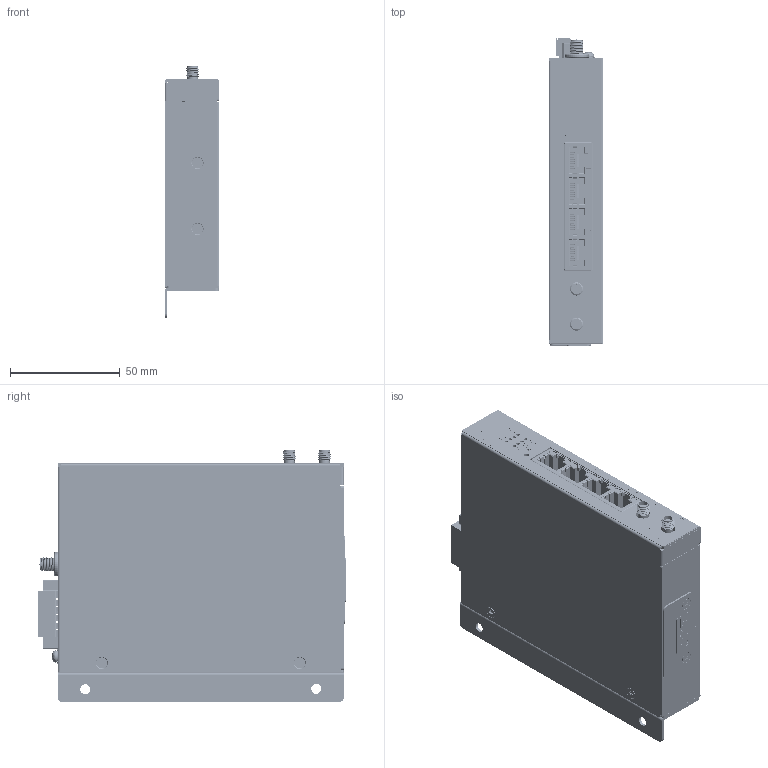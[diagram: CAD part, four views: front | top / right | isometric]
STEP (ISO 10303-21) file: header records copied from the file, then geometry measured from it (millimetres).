
FILE_DESCRIPTION (( 'STEP AP214' ), '1' );
FILE_NAME ('ICR-25xxW_Wall_mount.STEP', '2024-10-03T13:30:23', ( '' ), ( '' ), 'SwSTEP 2.0', 'SolidWorks 2024', '' );
FILE_SCHEMA (( 'AUTOMOTIVE_DESIGN' ));
Length unit declared in the file: millimetre
Products named in the file (33): RJ45_1x4_8p_Connector; B-ICR25xx A103-1; SMA_1P; Post_D3xL5; PCB-WIFI-20(4,5,6)xx; Plug-In_Block_1x6P; SMA_5P_Connector; Wall_mount_ICR-2(5,6)xx; BTB_20P_Conn; Chassis_for_ICR-25xx(G_W); SCR_ZC_M3_L6_PH_PW_2; LED_HOLDER_GGGG; PCB_ICR-25(6)xx; VMC-2022-04-1_Label - Insert SIM carefully_B; VMC-2022-04-1_Label - Insert SIM carefully; ICR-2500_FRONT_Label; Terminal_Block_1x6P; Cover_for_ICR_25xx; ICR-25xxW_Wall_mount; B-ICR-WIFI-20(4,5,6)xx-A107-1; SCR_ZC_M3_L10_PH_BN; Micro_SIM_ card_Connector; BTB_20P_Connector; VMC-2022-04-1_Label - Insert SIM carefully_A; SIM7155-6-1-14-A_PART1; Pin_Header_5x2P; Washer_V2i_AUX_W; SIM7155-6-1-14-A_PART2; SCR_BK_M3_L5_PH_FL_TW; SCR_ZC_M3_L6_PH_PW; Plate_for_SIM_ICR-2(0,4,5,6)xx; SCR_BK_M3_L5_PH_FL_TW_GLUE; PUSH_SW_3P
Assembly tree (44 placements, depth 4):
  ICR-25xxW_Wall_mount
    B-ICR25xx A103-1
      PCB_ICR-25(6)xx
      Micro_SIM_ card_Connector  x2
        SIM7155-6-1-14-A_PART1
        SIM7155-6-1-14-A_PART2
      Terminal_Block_1x6P
      RJ45_1x4_8p_Connector
      PUSH_SW_3P
      LED_HOLDER_GGGG  x2
      SMA_5P_Connector  x2
      Pin_Header_5x2P
      BTB_20P_Connector
    B-ICR-WIFI-20(4,5,6)xx-A107-1
      PCB-WIFI-20(4,5,6)xx
      BTB_20P_Conn
      SMA_1P
      Post_D3xL5
    Chassis_for_ICR-25xx(G_W)
    Cover_for_ICR_25xx
    Plate_for_SIM_ICR-2(0,4,5,6)xx
    Washer_V2i_AUX_W
    Plug-In_Block_1x6P
    ICR-2500_FRONT_Label
    VMC-2022-04-1_Label - Insert SIM carefully
      VMC-2022-04-1_Label - Insert SIM carefully_A
      VMC-2022-04-1_Label - Insert SIM carefully_B
    SCR_BK_M3_L5_PH_FL_TW  x5
    SCR_BK_M3_L5_PH_FL_TW_GLUE  x4
    SCR_ZC_M3_L6_PH_PW_2
    SCR_ZC_M3_L6_PH_PW  x3
    SCR_ZC_M3_L10_PH_BN
    Wall_mount_ICR-2(5,6)xx
Bounding box: 25 x 139.9 x 114.6 mm (x, y, z)
Volume: 75192.7 mm3; surface area: 152303.6 mm2
Topology: 247 solids, 253 shells, 18539 faces, 50386 edges, 32252 vertices
Faces by surface type: plane 13348, cylinder 3665, bspline 944, cone 303, sphere 184, torus 95
Entity records: 705488 total; most frequent: CARTESIAN_POINT 148562, ORIENTED_EDGE 90298, DIRECTION 81463, EDGE_CURVE 45149, LINE 36439, VECTOR 36439, VERTEX_POINT 28944, AXIS2_PLACEMENT_3D 22512
